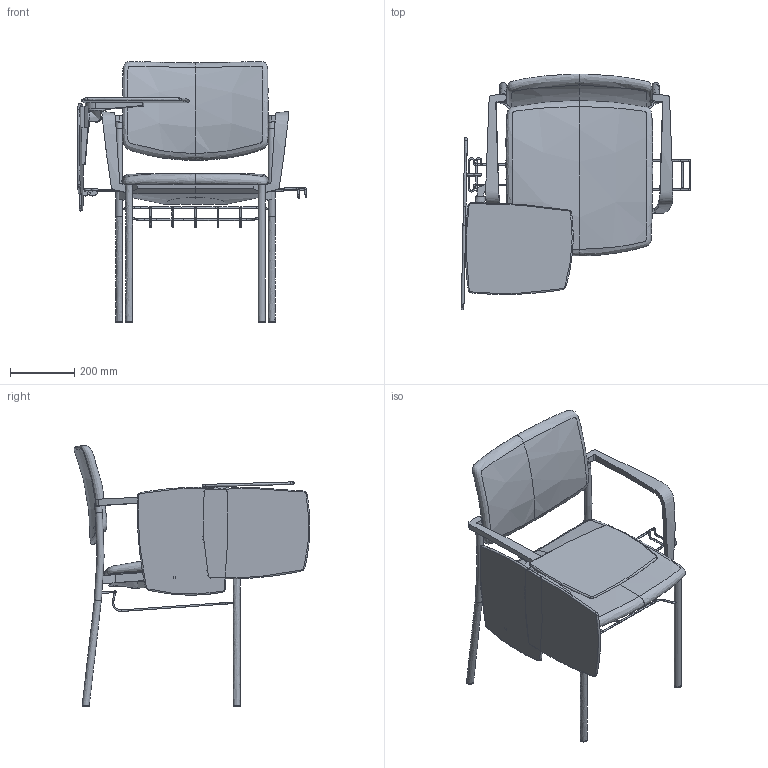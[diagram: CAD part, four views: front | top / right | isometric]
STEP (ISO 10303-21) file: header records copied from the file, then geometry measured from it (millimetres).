
FILE_DESCRIPTION(/* description */ (''),/* implementation_level */ '2;1');
FILE_NAME(/* name */ 'Seance 090-BR+dopl',/* time_stamp */ '2020-03-26T15:26:38+01:00',/* author */ (''),/* organization */ (''),/* preprocessor_version */ 'ST-DEVELOPER v16.5',/* originating_system */ '',/* authorisation */ '');
FILE_SCHEMA (('AUTOMOTIVE_DESIGN'));
Length unit declared in the file: millimetre
Products named in the file (1): Document
Bounding box: 712.65 x 732.48 x 811.07 mm (x, y, z)
Volume: 15156924.5 mm3; surface area: 2076772.5 mm2
Topology: 32 solids, 52 shells, 362 faces, 767 edges, 487 vertices
Faces by surface type: bspline 219, plane 143
Entity records: 18814 total; most frequent: CARTESIAN_POINT 13741, ORIENTED_EDGE 1488, EDGE_CURVE 764, VERTEX_POINT 481, EDGE_LOOP 370, B_SPLINE_CURVE_WITH_KNOTS 364, ADVANCED_FACE 362, FACE_OUTER_BOUND 362
